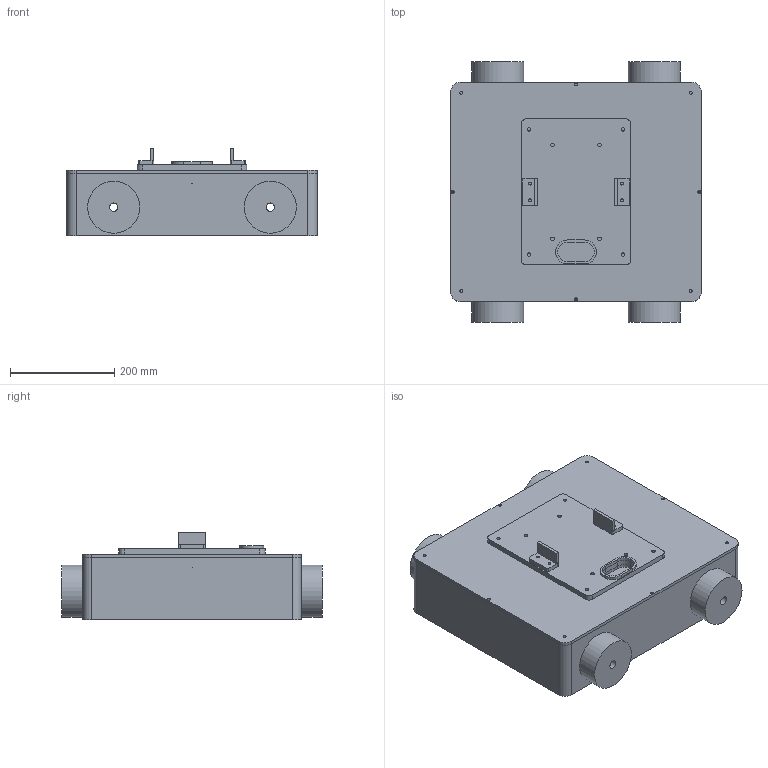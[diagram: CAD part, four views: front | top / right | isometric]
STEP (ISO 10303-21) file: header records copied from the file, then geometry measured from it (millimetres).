
FILE_DESCRIPTION(('Open CASCADE Model'),'2;1');
FILE_NAME('Open CASCADE Shape Model','2026-09-01T17:09:25',('Author'),( 'Open CASCADE'),'Open CASCADE STEP processor 7.9','Open CASCADE 7.9' ,'Unknown');
FILE_SCHEMA(('AUTOMOTIVE_DESIGN { 1 0 10303 214 1 1 1 1 }'));
Length unit declared in the file: millimetre
Products named in the file (11): Open CASCADE STEP translator 7.9 8; Open CASCADE STEP translator 7.9 8.1; Open CASCADE STEP translator 7.9 8.2; Open CASCADE STEP translator 7.9 8.3; Open CASCADE STEP translator 7.9 8.4; Open CASCADE STEP translator 7.9 8.5; Open CASCADE STEP translator 7.9 8.6; Open CASCADE STEP translator 7.9 8.7; Open CASCADE STEP translator 7.9 8.8; Open CASCADE STEP translator 7.9 8.9; Open CASCADE STEP translator 7.9 8.10
Assembly tree (10 placements, depth 2):
  Open CASCADE STEP translator 7.9 8
    Open CASCADE STEP translator 7.9 8.1
    Open CASCADE STEP translator 7.9 8.2
    Open CASCADE STEP translator 7.9 8.3
    Open CASCADE STEP translator 7.9 8.4
    Open CASCADE STEP translator 7.9 8.5
    Open CASCADE STEP translator 7.9 8.6
    Open CASCADE STEP translator 7.9 8.7
    Open CASCADE STEP translator 7.9 8.8
    Open CASCADE STEP translator 7.9 8.9
    Open CASCADE STEP translator 7.9 8.10
Bounding box: 480 x 500 x 168 mm (x, y, z)
Volume: 5809135.6 mm3; surface area: 1486001.4 mm2
Topology: 10 solids, 10 shells, 141 faces, 348 edges, 232 vertices
Faces by surface type: cylinder 76, plane 65
Full cylindrical faces by diameter (mm): 4.2 x4, 5.5 x16, 6.6 x8, 6.8 x4, 16 x4, 18 x4, 100 x4
Entity records: 9363 total; most frequent: CARTESIAN_POINT 2006, DIRECTION 1397, LINE 732, VECTOR 732, ORIENTED_EDGE 696, PCURVE 696, DEFINITIONAL_REPRESENTATION 696, EDGE_CURVE 348
